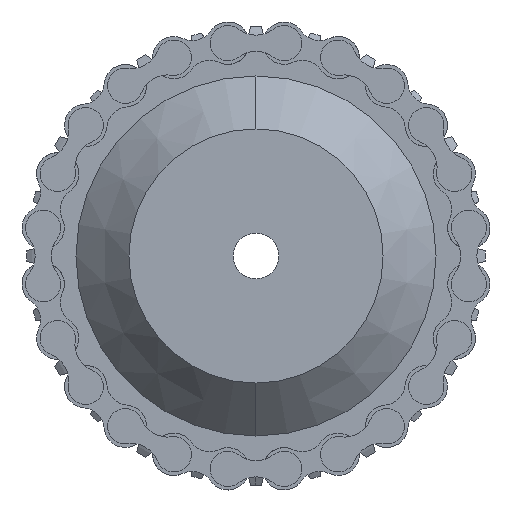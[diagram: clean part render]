
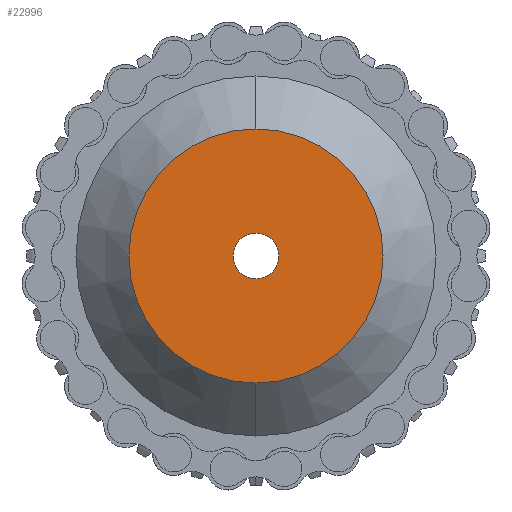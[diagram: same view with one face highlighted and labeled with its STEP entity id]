
A CAD part, left-side view. The second image highlights one B-rep face of the part: STEP entity #22996.
In plain terms, the highlighted planar face has unit normal (-1, 0, 0).
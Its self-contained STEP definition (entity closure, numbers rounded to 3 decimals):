
#22996 = ADVANCED_FACE ( 'NONE', ( #66422, #66421 ), #66427, .T. ) ;
#22997 = EDGE_LOOP ( 'NONE', ( #22998, #23000 ) ) ;
#22998 = ORIENTED_EDGE ( 'NONE', *, *, #22999, .F. ) ;
#22999 = EDGE_CURVE ( 'NONE', #24991, #24986, #66416, .T. ) ;
#23000 = ORIENTED_EDGE ( 'NONE', *, *, #24990, .F. ) ;
#23001 = EDGE_LOOP ( 'NONE', ( #23002, #23003 ) ) ;
#23002 = ORIENTED_EDGE ( 'NONE', *, *, #25020, .F. ) ;
#23003 = ORIENTED_EDGE ( 'NONE', *, *, #23004, .F. ) ;
#23004 = EDGE_CURVE ( 'NONE', #25023, #25022, #66411, .T. ) ;
#24986 = VERTEX_POINT ( 'NONE', #70116 ) ;
#24990 = EDGE_CURVE ( 'NONE', #24986, #24991, #70111, .T. ) ;
#24991 = VERTEX_POINT ( 'NONE', #70170 ) ;
#25020 = EDGE_CURVE ( 'NONE', #25022, #25023, #70212, .T. ) ;
#25022 = VERTEX_POINT ( 'NONE', #70207 ) ;
#25023 = VERTEX_POINT ( 'NONE', #70206 ) ;
#66407 = DIRECTION ( 'NONE',  ( 0., 0., -1. ) ) ;
#66408 = DIRECTION ( 'NONE',  ( 1., 0., 0. ) ) ;
#66409 = CARTESIAN_POINT ( 'NONE',  ( -50.3, 0., 0. ) ) ;
#66410 = AXIS2_PLACEMENT_3D ( 'NONE', #66409, #66408, #66407 ) ;
#66411 = CIRCLE ( 'NONE', #66410, 36. ) ;
#66412 = DIRECTION ( 'NONE',  ( 0., 0., 1. ) ) ;
#66413 = DIRECTION ( 'NONE',  ( -1., 0., 0. ) ) ;
#66414 = CARTESIAN_POINT ( 'NONE',  ( -50.3, 0., 0. ) ) ;
#66415 = AXIS2_PLACEMENT_3D ( 'NONE', #66414, #66413, #66412 ) ;
#66416 = CIRCLE ( 'NONE', #66415, 6.5 ) ;
#66417 = DIRECTION ( 'NONE',  ( 0., 0., 1. ) ) ;
#66418 = DIRECTION ( 'NONE',  ( -1., 0., 0. ) ) ;
#66419 = CARTESIAN_POINT ( 'NONE',  ( -50.3, 36., 0. ) ) ;
#66420 = AXIS2_PLACEMENT_3D ( 'NONE', #66419, #66418, #66417 ) ;
#66421 = FACE_OUTER_BOUND ( 'NONE', #23001, .T. ) ;
#66422 = FACE_BOUND ( 'NONE', #22997, .T. ) ;
#66427 = PLANE ( 'NONE',  #66420 ) ;
#70108 = DIRECTION ( 'NONE',  ( -1., 0., 0. ) ) ;
#70109 = CARTESIAN_POINT ( 'NONE',  ( -50.3, 0., 0. ) ) ;
#70110 = AXIS2_PLACEMENT_3D ( 'NONE', #70109, #70108, #70171 ) ;
#70111 = CIRCLE ( 'NONE', #70110, 6.5 ) ;
#70116 = CARTESIAN_POINT ( 'NONE',  ( -50.3, 0., -6.5 ) ) ;
#70170 = CARTESIAN_POINT ( 'NONE',  ( -50.3, 0., 6.5 ) ) ;
#70171 = DIRECTION ( 'NONE',  ( 0., 0., 1. ) ) ;
#70206 = CARTESIAN_POINT ( 'NONE',  ( -50.3, 0., 36. ) ) ;
#70207 = CARTESIAN_POINT ( 'NONE',  ( -50.3, 0., -36. ) ) ;
#70208 = DIRECTION ( 'NONE',  ( 0., 0., -1. ) ) ;
#70209 = DIRECTION ( 'NONE',  ( 1., 0., 0. ) ) ;
#70210 = CARTESIAN_POINT ( 'NONE',  ( -50.3, 0., 0. ) ) ;
#70211 = AXIS2_PLACEMENT_3D ( 'NONE', #70210, #70209, #70208 ) ;
#70212 = CIRCLE ( 'NONE', #70211, 36. ) ;
